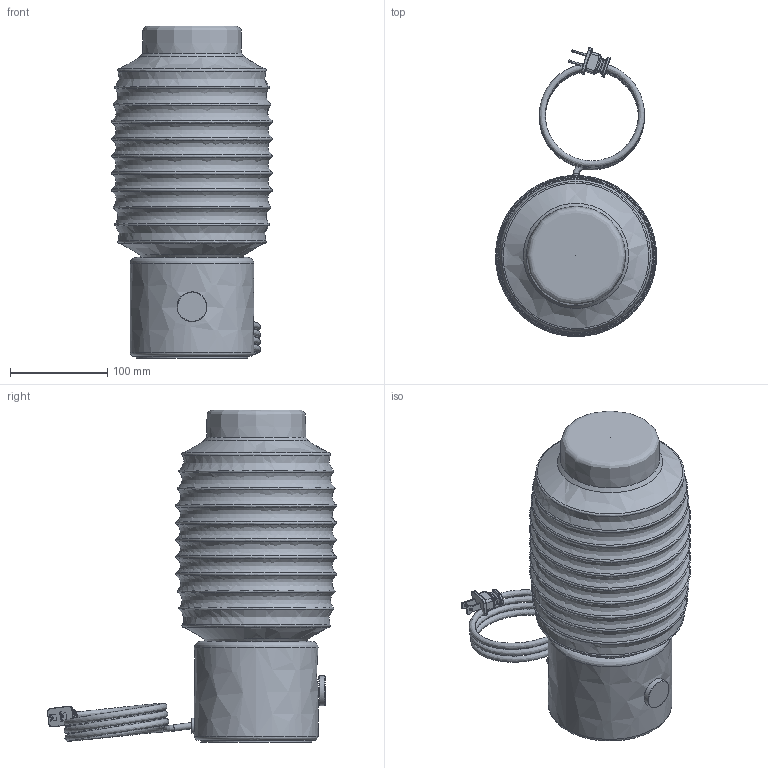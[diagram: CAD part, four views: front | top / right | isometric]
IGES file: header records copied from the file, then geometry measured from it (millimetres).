
Global section: file name: Chinois - Ionic Table Lamp; native system: unknown; preprocessor: unknown; author: unknown; organization: unknown; date: 20240726.155250; units: inch
Bounding box: 165.1 x 296.89 x 340.68 mm (x, y, z)
Volume: 1169762.7 mm3; surface area: 585990.5 mm2
Topology: 17 solids, 17 shells, 2039 faces, 5444 edges, 3584 vertices
Faces by surface type: bspline 2038, revolution 1
